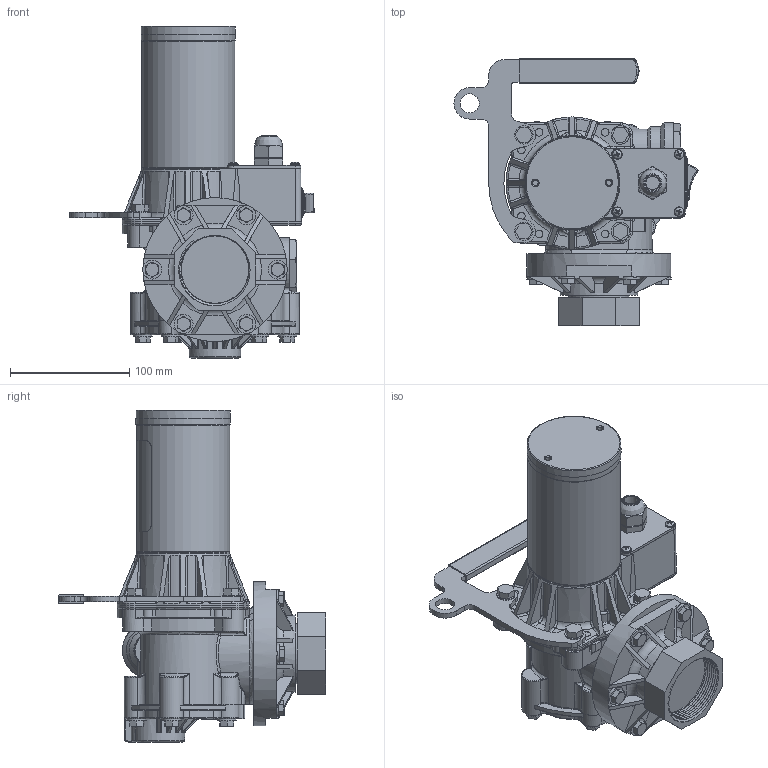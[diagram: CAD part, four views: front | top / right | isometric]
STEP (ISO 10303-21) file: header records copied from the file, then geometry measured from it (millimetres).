
FILE_DESCRIPTION(/* description */ (''),/* implementation_level */ '2;1');
FILE_NAME(/* name */ 'C:\Vault Projects\GPI Eng\New Projects\DHarris\Website model updates\STEP\P-120H-2UR.stp',/* time_stamp */ '2022-07-19T13:55:03-05:00',/* author */ ('gdanhar'),/* organization */ (''),/* preprocessor_version */ 'ST-DEVELOPER v18.1',/* originating_system */ 'Autodesk Inventor 2022',/* authorisation */ '');
FILE_SCHEMA (('AUTOMOTIVE_DESIGN { 1 0 10303 214 3 1 1 }'));
Length unit declared in the file: inch
Products named in the file (1): P-120H-2UR
Bounding box: 204.53 x 224.04 x 278.17 mm (x, y, z)
Volume: 2329063 mm3; surface area: 239577.7 mm2
Topology: 2 solids, 9 shells, 2359 faces, 6144 edges, 3920 vertices
Faces by surface type: plane 1160, cylinder 418, bspline 387, torus 276, cone 105, sphere 13
Full cylindrical faces by diameter (mm): 2.337 x1, 2.438 x1, 3.048 x1, 6.35 x6, 7.938 x4, 8.179 x4, 8.89 x2, 11.1 x1, 12.649 x1, 15.329 x2, 15.494 x2, 15.875 x6, 16.002 x7, 18.872 x1, 25.4 x1, 50.317 x1, 56.363 x1, 56.967 x8, 65.075 x1, 77.953 x1, 88.697 x1, 88.849 x1, 120.65 x1
Entity records: 92089 total; most frequent: CARTESIAN_POINT 34927, ORIENTED_EDGE 12248, DIRECTION 10185, EDGE_CURVE 6124, VERTEX_POINT 3920, AXIS2_PLACEMENT_3D 3494, LINE 3197, VECTOR 3197
